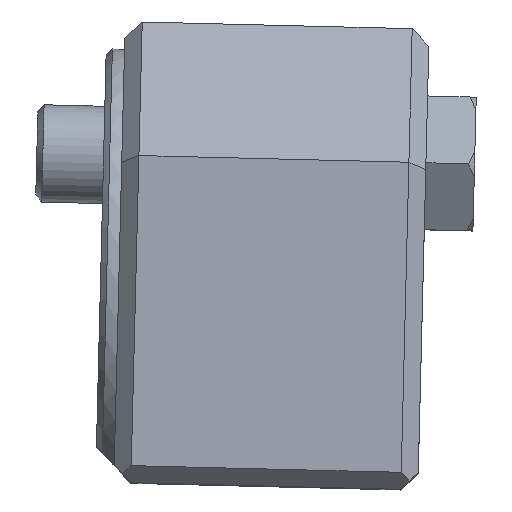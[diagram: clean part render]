
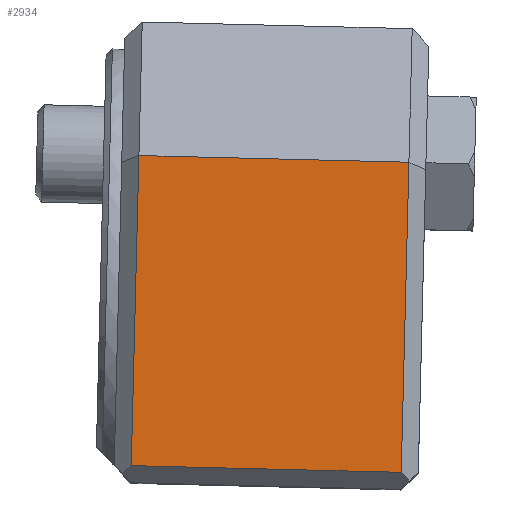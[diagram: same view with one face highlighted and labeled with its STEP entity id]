
A CAD part, top view. The second image highlights one B-rep face of the part: STEP entity #2934.
In plain terms, the highlighted planar face has unit normal (0, 0, 1).
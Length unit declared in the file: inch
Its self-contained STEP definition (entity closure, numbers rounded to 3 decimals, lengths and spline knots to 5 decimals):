
#201=LINE('',#4495,#365);
#206=LINE('',#4505,#370);
#208=LINE('',#4509,#372);
#209=LINE('',#4510,#373);
#365=VECTOR('',#3621,0.3937);
#370=VECTOR('',#3632,0.3937);
#372=VECTOR('',#3636,0.3937);
#373=VECTOR('',#3637,0.3937);
#562=FACE_OUTER_BOUND('',#734,.T.);
#734=EDGE_LOOP('',(#1956,#1957,#1958,#1959));
#1145=VERTEX_POINT('',#4492);
#1146=VERTEX_POINT('',#4494);
#1148=VERTEX_POINT('',#4504);
#1149=VERTEX_POINT('',#4508);
#1462=EDGE_CURVE('',#1145,#1146,#201,.T.);
#1467=EDGE_CURVE('',#1146,#1148,#206,.T.);
#1469=EDGE_CURVE('',#1149,#1145,#208,.T.);
#1470=EDGE_CURVE('',#1148,#1149,#209,.T.);
#1956=ORIENTED_EDGE('',*,*,#1462,.F.);
#1957=ORIENTED_EDGE('',*,*,#1469,.F.);
#1958=ORIENTED_EDGE('',*,*,#1470,.F.);
#1959=ORIENTED_EDGE('',*,*,#1467,.F.);
#2663=PLANE('',#3167);
#2934=ADVANCED_FACE('',(#562),#2663,.T.);
#3167=AXIS2_PLACEMENT_3D('',#4507,#3634,#3635);
#3621=DIRECTION('',(0.025,1.,0.));
#3632=DIRECTION('',(1.,-0.025,0.));
#3634=DIRECTION('center_axis',(0.,0.,
1.));
#3635=DIRECTION('ref_axis',(-0.025,-1.,0.));
#3636=DIRECTION('',(-1.,0.025,0.));
#3637=DIRECTION('',(-0.025,-1.,0.));
#4492=CARTESIAN_POINT('',(-0.92975,-1.14551,1.05691));
#4494=CARTESIAN_POINT('',(-0.90496,-0.14188,1.05691));
#4495=CARTESIAN_POINT('',(-0.90882,-0.29833,1.05691));
#4504=CARTESIAN_POINT('',(-0.03121,-0.16346,1.05691));
#4505=CARTESIAN_POINT('',(-0.96006,-0.14052,1.05691));
#4507=CARTESIAN_POINT('Origin',(-0.96006,-0.14052,1.05691));
#4508=CARTESIAN_POINT('',(-0.056,-1.16709,1.05691));
#4509=CARTESIAN_POINT('',(-0.98485,-1.14415,1.05691));
#4510=CARTESIAN_POINT('',(-0.03507,-0.31991,1.05691));
